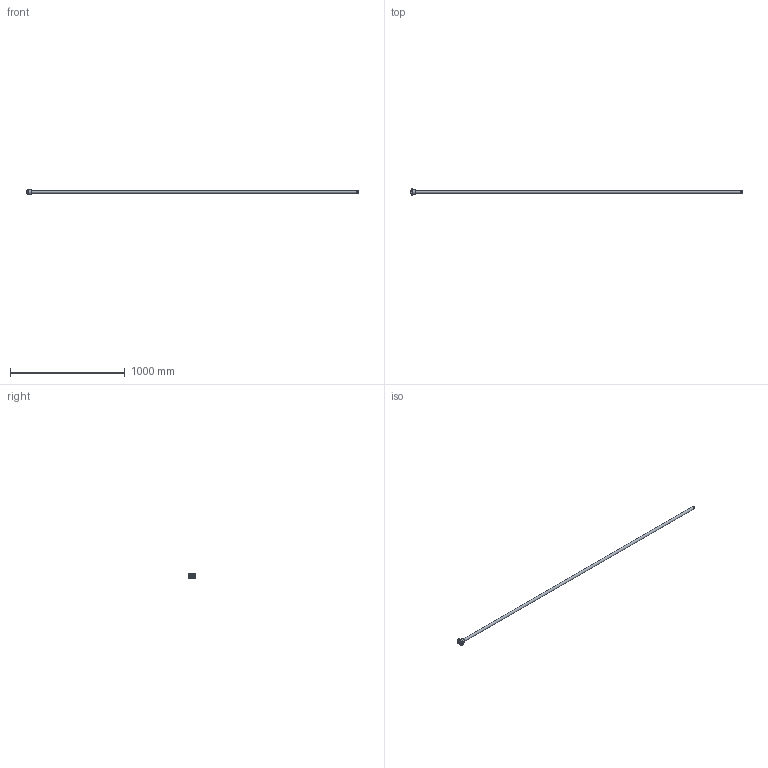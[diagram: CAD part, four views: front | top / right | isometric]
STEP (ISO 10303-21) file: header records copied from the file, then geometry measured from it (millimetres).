
FILE_DESCRIPTION( ( 'STEP AP203' ), ' ' );
FILE_NAME( 'p:/temp/worker_47/1504_1140/app_55_12018011810423598642589818fa3fd_000000_00_00_000000/format_0/BTK 2505V-2.6ZZ+2891LT_28310.stp', '2018-01-18T09:42:37', ( '' ), ( '' ), ' ', 'PARTsolutions', ' ' );
FILE_SCHEMA( ( 'CONFIG_CONTROL_DESIGN' ) );
Length unit declared in the file: millimetre
Products named in the file (3): BTK 2505V-2.6ZZ+2891LT_28310; _BTK 2505V-2.62831 Shaft; _BTK 2505V-2.6ZZ Nut
Assembly tree (2 placements, depth 2):
  BTK 2505V-2.6ZZ+2891LT_28310
    _BTK 2505V-2.62831 Shaft
    _BTK 2505V-2.6ZZ Nut
Bounding box: 2891 x 67 x 50 mm (x, y, z)
Volume: 1468471.7 mm3; surface area: 244103.9 mm2
Topology: 2 solids, 2 shells, 39 faces, 84 edges, 55 vertices
Faces by surface type: cylinder 17, plane 14, cone 8
Full cylindrical faces by diameter (mm): 4.917 x1, 5.5 x4, 20 x2, 25 x4, 30 x2, 38.7 x1, 43 x1
Entity records: 1198 total; most frequent: CARTESIAN_POINT 299, DIRECTION 174, ORIENTED_EDGE 122, AXIS2_PLACEMENT_3D 82, EDGE_LOOP 76, EDGE_CURVE 61, FACE_OUTER_BOUND 54, VERTEX_POINT 51
